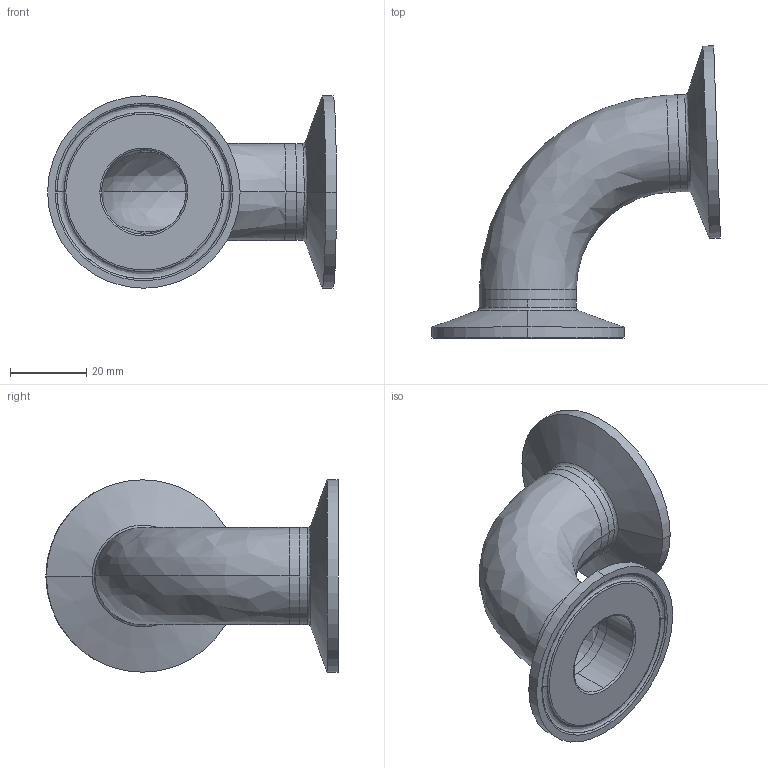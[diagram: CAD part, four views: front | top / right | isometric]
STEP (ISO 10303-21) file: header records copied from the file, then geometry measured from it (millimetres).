
FILE_DESCRIPTION (( 'STEP AP214' ), '1' );
FILE_NAME ('TEG2C886L1.0-...STEP', '2016-05-22T08:55:12', ( 'eran' ), ( '' ), 'SwSTEP 2.0', 'SolidWorks 2016', '' );
FILE_SCHEMA (( 'AUTOMOTIVE_DESIGN' ));
Length unit declared in the file: millimetre
Products named in the file (1): TEG2C886L1.0-..
Bounding box: 75.61 x 76.49 x 50.39 mm (x, y, z)
Volume: 24494.1 mm3; surface area: 19257 mm2
Topology: 3 solids, 3 shells, 64 faces, 156 edges, 100 vertices
Faces by surface type: bspline 24, cylinder 20, cone 12, plane 8
Entity records: 3040 total; most frequent: CARTESIAN_POINT 1485, DIRECTION 338, ORIENTED_EDGE 312, EDGE_CURVE 156, AXIS2_PLACEMENT_3D 153, CIRCLE 112, VERTEX_POINT 100, EDGE_LOOP 72
